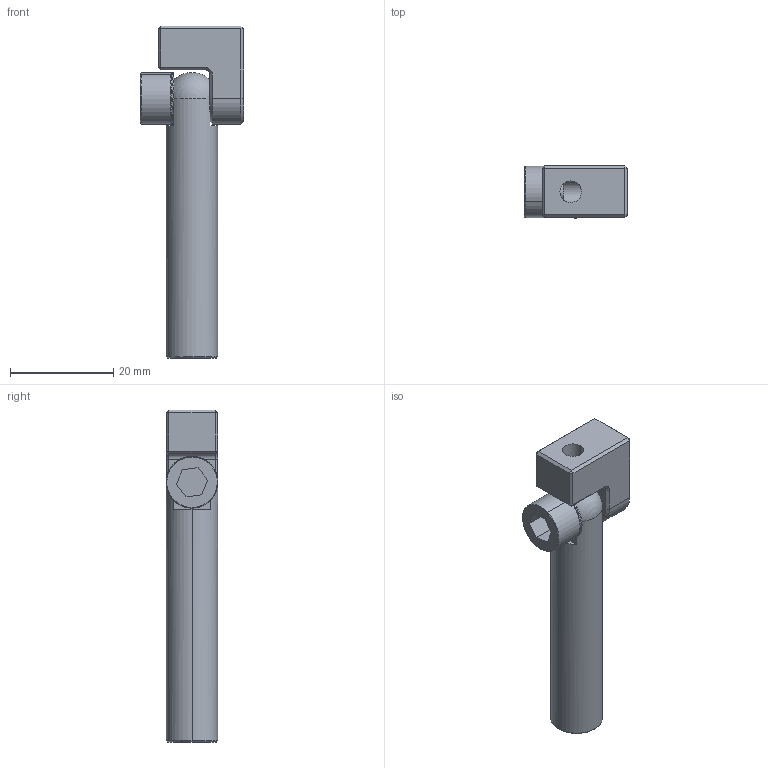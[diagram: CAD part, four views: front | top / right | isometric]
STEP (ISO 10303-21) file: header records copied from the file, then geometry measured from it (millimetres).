
FILE_DESCRIPTION (( 'STEP AP214' ), '1' );
FILE_NAME ('SEAV-M510L45T.STEP', '2023-02-02T02:32:49', ( 'Windows User' ), ( 'P R C' ), 'SwSTEP 2.0', 'SolidWorks 2019', '' );
FILE_SCHEMA (( 'AUTOMOTIVE_DESIGN' ));
Length unit declared in the file: millimetre
Products named in the file (5): SEAV-M510L90.2; SEAV-M510L45.1; PTS-M6; SEAV-M510L45T; PTC-M6L12
Assembly tree (4 placements, depth 2):
  SEAV-M510L45T
    SEAV-M510L90.2
    PTC-M6L12
    PTS-M6
    SEAV-M510L45.1
Bounding box: 19.95 x 10 x 64.3 mm (x, y, z)
Volume: 4202.3 mm3; surface area: 4956.5 mm2
Topology: 4 solids, 4 shells, 245 faces, 674 edges, 434 vertices
Faces by surface type: plane 202, cylinder 25, cone 16, sphere 2
Entity records: 7986 total; most frequent: DIRECTION 1394, CARTESIAN_POINT 1370, ORIENTED_EDGE 1336, EDGE_CURVE 668, AXIS2_PLACEMENT_3D 480, LINE 434, VECTOR 434, VERTEX_POINT 432
